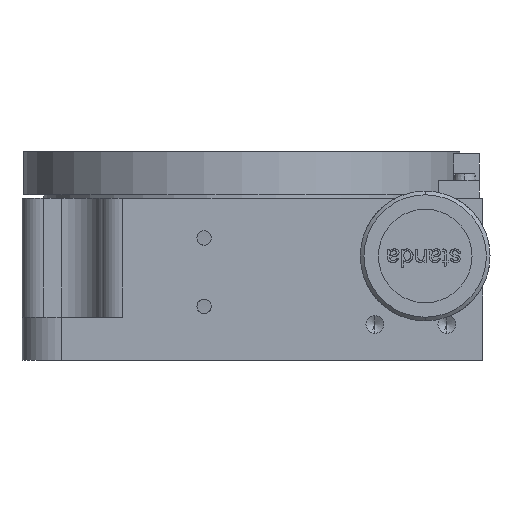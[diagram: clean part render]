
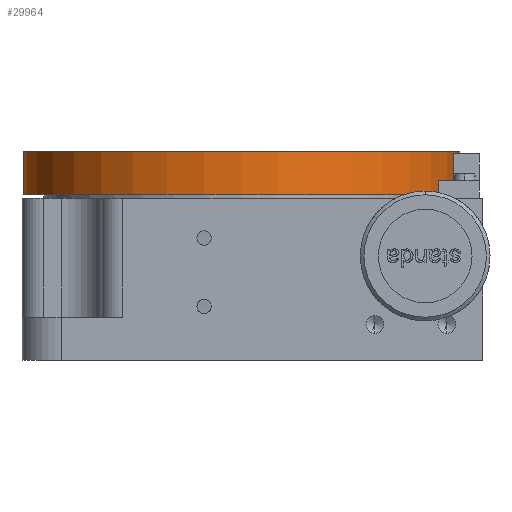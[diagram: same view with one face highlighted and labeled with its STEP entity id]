
A CAD part, front view. The second image highlights one B-rep face of the part: STEP entity #29964.
In plain terms, the highlighted cylindrical face has radius 769.62 mm (diameter 1539.24 mm), a partial arc.
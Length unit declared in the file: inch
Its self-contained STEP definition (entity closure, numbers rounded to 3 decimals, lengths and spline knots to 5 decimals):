
#2681 = EDGE_CURVE ( 'NONE', #2744, #2748, #9115, .T. ) ;
#2744 = VERTEX_POINT ( 'NONE', #9266 ) ;
#2746 = VERTEX_POINT ( 'NONE', #9265 ) ;
#2748 = VERTEX_POINT ( 'NONE', #9262 ) ;
#2795 = VERTEX_POINT ( 'NONE', #9389 ) ;
#2799 = EDGE_CURVE ( 'NONE', #2746, #2795, #9388, .T. ) ;
#9112 = DIRECTION ( 'NONE',  ( 0., 0., 1. ) ) ;
#9113 = VECTOR ( 'NONE', #9112, 39.37008 ) ;
#9114 = CARTESIAN_POINT ( 'NONE',  ( 0.2, 30.5, 23. ) ) ;
#9115 = LINE ( 'NONE', #9114, #9113 ) ;
#9262 = CARTESIAN_POINT ( 'NONE',  ( 0.2, 30.5, 29. ) ) ;
#9265 = CARTESIAN_POINT ( 'NONE',  ( 60.8, 30.5, 23. ) ) ;
#9266 = CARTESIAN_POINT ( 'NONE',  ( 0.2, 30.5, 23. ) ) ;
#9385 = DIRECTION ( 'NONE',  ( 0., 0., 1. ) ) ;
#9386 = VECTOR ( 'NONE', #9385, 39.37008 ) ;
#9387 = CARTESIAN_POINT ( 'NONE',  ( 60.8, 30.5, 23. ) ) ;
#9388 = LINE ( 'NONE', #9387, #9386 ) ;
#9389 = CARTESIAN_POINT ( 'NONE',  ( 60.8, 30.5, 29. ) ) ;
#16886 = DIRECTION ( 'NONE',  ( 1., 0., 0. ) ) ;
#16887 = DIRECTION ( 'NONE',  ( 0., 0., 1. ) ) ;
#16888 = CARTESIAN_POINT ( 'NONE',  ( 30.5, 30.5, 23. ) ) ;
#16889 = AXIS2_PLACEMENT_3D ( 'NONE', #16888, #16887, #16886 ) ;
#16890 = CYLINDRICAL_SURFACE ( 'NONE', #16889, 30.3 ) ;
#16891 = FACE_OUTER_BOUND ( 'NONE', #29965, .T. ) ;
#17019 = DIRECTION ( 'NONE',  ( 1., 0., 0. ) ) ;
#17020 = DIRECTION ( 'NONE',  ( 0., 0., -1. ) ) ;
#17021 = CARTESIAN_POINT ( 'NONE',  ( 30.5, 30.5, 29. ) ) ;
#17022 = AXIS2_PLACEMENT_3D ( 'NONE', #17021, #17020, #17019 ) ;
#17023 = CIRCLE ( 'NONE', #17022, 30.3 ) ;
#17024 = DIRECTION ( 'NONE',  ( 1., 0., 0. ) ) ;
#17025 = DIRECTION ( 'NONE',  ( 0., 0., -1. ) ) ;
#17026 = AXIS2_PLACEMENT_3D ( 'NONE', #17031, #17025, #17024 ) ;
#17027 = CIRCLE ( 'NONE', #17026, 30.3 ) ;
#17031 = CARTESIAN_POINT ( 'NONE',  ( 30.5, 30.5, 23. ) ) ;
#29964 = ADVANCED_FACE ( 'NONE', ( #16891 ), #16890, .T. ) ;
#29965 = EDGE_LOOP ( 'NONE', ( #29966, #30026, #30028, #30029 ) ) ;
#29966 = ORIENTED_EDGE ( 'NONE', *, *, #2681, .F. ) ;
#30026 = ORIENTED_EDGE ( 'NONE', *, *, #30027, .F. ) ;
#30027 = EDGE_CURVE ( 'NONE', #2746, #2744, #17027, .T. ) ;
#30028 = ORIENTED_EDGE ( 'NONE', *, *, #2799, .T. ) ;
#30029 = ORIENTED_EDGE ( 'NONE', *, *, #30030, .T. ) ;
#30030 = EDGE_CURVE ( 'NONE', #2795, #2748, #17023, .T. ) ;
